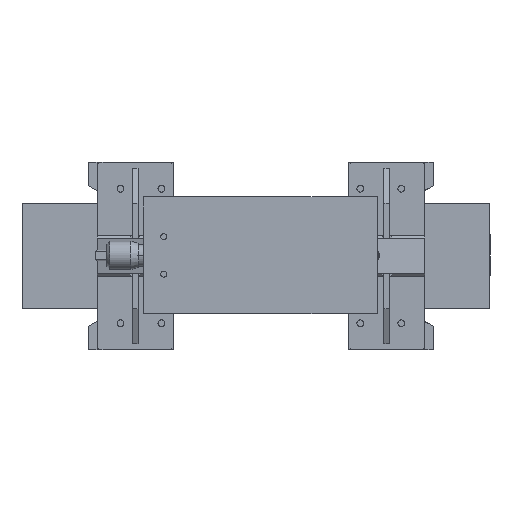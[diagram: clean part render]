
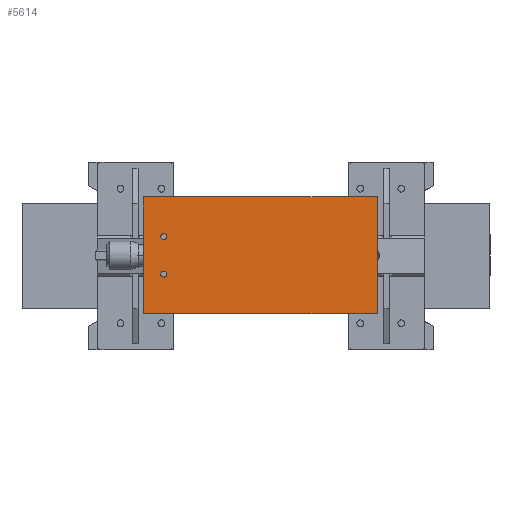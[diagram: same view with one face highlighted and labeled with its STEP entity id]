
A CAD part, front view. The second image highlights one B-rep face of the part: STEP entity #5614.
In plain terms, the highlighted planar face has unit normal (0, -1, 0) as drawn and (0, 0, -1) by its records, which use the part's own axes.
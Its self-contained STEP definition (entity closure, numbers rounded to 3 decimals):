
#4881=CARTESIAN_POINT('',(3.713,-42.735,0.0));
#4882=VERTEX_POINT('',#4881);
#4891=CARTESIAN_POINT('',(-6.393,-42.735,0.0));
#4892=VERTEX_POINT('',#4891);
#4893=CARTESIAN_POINT('',(-1.34,-42.735,0.0));
#4894=DIRECTION('',(0.0,0.0,1.0));
#4895=DIRECTION('',(1.0,0.0,0.0));
#4896=AXIS2_PLACEMENT_3D('',#4893,#4894,#4895);
#4897=CIRCLE('',#4896,5.053);
#4898=EDGE_CURVE('',#4892,#4882,#4897,.T.);
#4944=CARTESIAN_POINT('',(3.713,-106.735,0.0));
#4945=VERTEX_POINT('',#4944);
#4954=CARTESIAN_POINT('',(-6.393,-106.735,0.0));
#4955=VERTEX_POINT('',#4954);
#4956=CARTESIAN_POINT('',(-1.34,-106.735,0.0));
#4957=DIRECTION('',(0.0,0.0,1.0));
#4958=DIRECTION('',(1.0,0.0,0.0));
#4959=AXIS2_PLACEMENT_3D('',#4956,#4957,#4958);
#4960=CIRCLE('',#4959,5.053);
#4961=EDGE_CURVE('',#4955,#4945,#4960,.T.);
#5050=CARTESIAN_POINT('',(-1.34,-106.735,0.0));
#5051=DIRECTION('',(0.0,0.0,1.0));
#5052=DIRECTION('',(1.0,0.0,0.0));
#5053=AXIS2_PLACEMENT_3D('',#5050,#5051,#5052);
#5054=CIRCLE('',#5053,5.053);
#5055=EDGE_CURVE('',#4945,#4955,#5054,.T.);
#5224=CARTESIAN_POINT('',(-1.34,-42.735,0.0));
#5225=DIRECTION('',(0.0,0.0,1.0));
#5226=DIRECTION('',(1.0,0.0,0.0));
#5227=AXIS2_PLACEMENT_3D('',#5224,#5225,#5226);
#5228=CIRCLE('',#5227,5.053);
#5229=EDGE_CURVE('',#4882,#4892,#5228,.T.);
#5492=CARTESIAN_POINT('',(-36.34,25.265,0.0));
#5493=VERTEX_POINT('',#5492);
#5500=CARTESIAN_POINT('',(-36.34,-174.735,0.0));
#5501=VERTEX_POINT('',#5500);
#5502=CARTESIAN_POINT('',(-36.34,-174.735,0.0));
#5503=DIRECTION('',(0.0,1.0,0.0));
#5504=VECTOR('',#5503,200.0);
#5505=LINE('',#5502,#5504);
#5506=EDGE_CURVE('',#5501,#5493,#5505,.T.);
#5533=CARTESIAN_POINT('',(363.66,-174.735,0.0));
#5534=VERTEX_POINT('',#5533);
#5541=CARTESIAN_POINT('',(363.66,25.265,0.0));
#5542=VERTEX_POINT('',#5541);
#5543=CARTESIAN_POINT('',(363.66,25.265,0.0));
#5544=DIRECTION('',(0.0,-1.0,0.0));
#5545=VECTOR('',#5544,200.);
#5546=LINE('',#5543,#5545);
#5547=EDGE_CURVE('',#5542,#5534,#5546,.T.);
#5568=CARTESIAN_POINT('',(363.66,-174.735,0.0));
#5569=DIRECTION('',(-1.0,0.0,0.0));
#5570=VECTOR('',#5569,400.);
#5571=LINE('',#5568,#5570);
#5572=EDGE_CURVE('',#5534,#5501,#5571,.T.);
#5585=CARTESIAN_POINT('',(-36.34,25.265,0.0));
#5586=DIRECTION('',(1.0,0.0,0.0));
#5587=VECTOR('',#5586,400.);
#5588=LINE('',#5585,#5587);
#5589=EDGE_CURVE('',#5493,#5542,#5588,.T.);
#5595=CARTESIAN_POINT('',(163.66,-74.735,0.0));
#5596=DIRECTION('',(0.0,0.0,1.0));
#5597=DIRECTION('',(1.0,0.0,0.0));
#5598=AXIS2_PLACEMENT_3D('',#5595,#5596,#5597);
#5599=PLANE('',#5598);
#5600=ORIENTED_EDGE('',*,*,#5589,.T.);
#5601=ORIENTED_EDGE('',*,*,#5547,.T.);
#5602=ORIENTED_EDGE('',*,*,#5572,.T.);
#5603=ORIENTED_EDGE('',*,*,#5506,.T.);
#5604=EDGE_LOOP('',(#5600,#5601,#5602,#5603));
#5605=FACE_OUTER_BOUND('',#5604,.T.);
#5606=ORIENTED_EDGE('',*,*,#4961,.T.);
#5607=ORIENTED_EDGE('',*,*,#5055,.T.);
#5608=EDGE_LOOP('',(#5606,#5607));
#5609=FACE_BOUND('',#5608,.T.);
#5610=ORIENTED_EDGE('',*,*,#4898,.T.);
#5611=ORIENTED_EDGE('',*,*,#5229,.T.);
#5612=EDGE_LOOP('',(#5610,#5611));
#5613=FACE_BOUND('',#5612,.T.);
#5614=ADVANCED_FACE('',(#5605,#5609,#5613),#5599,.F.);
